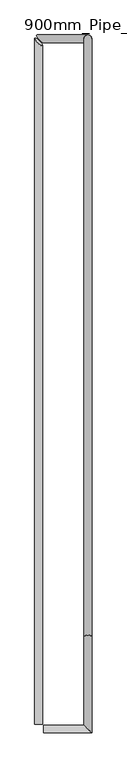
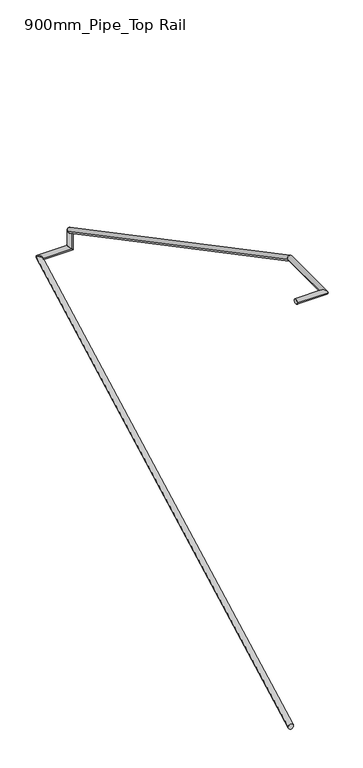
"""IFC4 building model written with IfcOpenShell, lengths in millimetres: railing geometry, 900mm_Pipe_Top Rail."""

from ifc_helpers import new_model, si_unit, frame, origin, place, context, project, spatial, circle_curve, ellipse_curve, source, transform, mapped, element, save
from ifc_brep_helpers import plane_surface, cylinder_surface, advanced_brep


def railing_900mm_pipe_top_rail_d9892091(model_context):
    return source(origin(), model_context, "Body", "AdvancedBrep", [
        advanced_brep(
        [(-12195.3216429, -3435.1039323, 2906.7976593), (-12235.3216429, -3435.1039323, 2906.7976593), (-12195.3216429, 6.5804296, 4729.2514737), (-12235.3216429, 41.9303083, 4747.9700762)],
        [
            (0, 1, ellipse_curve(frame((-12215.3216429, -3435.1039323, 2906.7976593), z_axis=(0.0, -1.0, 0.0), x_axis=(0.0, 0.0, -1.0)), 22.6309122, 20.0)),
            (1, 0, ellipse_curve(frame((-12215.3216429, -3435.1039323, 2906.7976593), z_axis=(0.0, -1.0, 0.0), x_axis=(0.0, 0.0, -1.0)), 22.6309122, 20.0)),
            (2, 3, ellipse_curve(frame((-12215.3216429, 24.2553689, 4738.6107749), z_axis=(0.7071067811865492, 0.624903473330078, 0.33090126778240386), x_axis=(0.7071067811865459, -0.6249034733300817, -0.33090126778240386)), 28.2842712, 20.0)),
            (3, 2, ellipse_curve(frame((-12215.3216429, 24.2553689, 4738.6107749), z_axis=(0.7071067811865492, 0.624903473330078, 0.33090126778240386), x_axis=(0.7071067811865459, -0.6249034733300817, -0.33090126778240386)), 28.2842712, 20.0)),
            (0, 2),
            (3, 1),
        ],
        [
            plane_surface(frame((-12215.3216429, -3435.1039323, 2929.4285714), z_axis=(0.0, -1.0, 0.0), x_axis=(0.0, 0.0, 1.0))),
            plane_surface(frame((-12215.3216429, 14.8960677, 4756.2857143), z_axis=(0.7071067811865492, 0.624903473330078, 0.33090126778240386), x_axis=(0.7071067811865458, -0.624903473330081, -0.3309012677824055))),
            cylinder_surface(frame((-12215.3216429, -3425.7446311, 2911.7536321), z_axis=(0.0, -0.8837469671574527, -0.46796506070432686), x_axis=(-1.0, 0.0, 0.0)), 20.0),
        ],
        [
            (0, [[1, 2]]),
            (1, [[3, 4]]),
            (2, [[-1, 5, -4, 6]]),
            (2, [[-2, -6, -3, -5]]),
        ],
    ),
        advanced_brep(
        [(-12188.2874024, 19.9094255, 4736.2857143), (-12223.6372811, 59.9094255, 4736.2857143), (-11965.2146087, 19.9094255, 4736.2857143), (-11965.2146087, 59.9094255, 4736.2857143)],
        [
            (0, 1, ellipse_curve(frame((-12205.9623417, 39.9094255, 4736.2857143), z_axis=(-0.7071067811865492, -0.624903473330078, -0.33090126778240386), x_axis=(-0.7071067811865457, 0.6249034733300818, 0.33090126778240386)), 28.2842712, 20.0)),
            (1, 0, ellipse_curve(frame((-12205.9623417, 39.9094255, 4736.2857143), z_axis=(-0.7071067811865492, -0.624903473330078, -0.33090126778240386), x_axis=(-0.7071067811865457, 0.6249034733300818, 0.33090126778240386)), 28.2842712, 20.0)),
            (2, 3, ellipse_curve(frame((-11965.2146087, 39.9094255, 4736.2857143), z_axis=(0.7071067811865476, 0.0, 0.7071067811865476), x_axis=(-0.7071067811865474, 0.0, 0.7071067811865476)), 28.2842712, 20.0)),
            (3, 2, ellipse_curve(frame((-11965.2146087, 39.9094255, 4736.2857143), z_axis=(0.7071067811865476, 0.0, 0.7071067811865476), x_axis=(-0.7071067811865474, 0.0, 0.7071067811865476)), 28.2842712, 20.0)),
            (0, 2),
            (3, 1),
        ],
        [
            plane_surface(frame((-12215.3216429, 39.9094255, 4756.2857143), z_axis=(-0.7071067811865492, -0.624903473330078, -0.33090126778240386), x_axis=(0.7071067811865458, -0.624903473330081, -0.3309012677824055))),
            plane_surface(frame((-11985.2146087, 39.9094255, 4756.2857143), z_axis=(0.7071067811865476, 0.0, 0.7071067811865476), x_axis=(0.7071067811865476, 0.0, -0.7071067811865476))),
            cylinder_surface(frame((-12215.3216429, 39.9094255, 4736.2857143), z_axis=(-1.0, 0.0, 0.0), x_axis=(0.0, 1.0, 0.0)), 20.0),
        ],
        [
            (0, [[1, 2]]),
            (1, [[3, 4]]),
            (2, [[-1, 5, -4, 6]]),
            (2, [[-2, -6, -3, -5]]),
        ],
    ),
        advanced_brep(
        [(-11965.2146087, 19.9094255, 4736.2857143), (-11965.2146087, 59.9094255, 4736.2857143), (-11965.2146087, 19.9094255, 4867.2263405), (-11965.2146087, 59.9094255, 4891.3072125)],
        [
            (0, 1, ellipse_curve(frame((-11965.2146087, 39.9094255, 4736.2857143), z_axis=(-0.7071067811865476, 0.0, -0.7071067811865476), x_axis=(0.7071067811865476, 0.0, -0.7071067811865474)), 28.2842712, 20.0)),
            (1, 0, ellipse_curve(frame((-11965.2146087, 39.9094255, 4736.2857143), z_axis=(-0.7071067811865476, 0.0, -0.7071067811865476), x_axis=(0.7071067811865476, 0.0, -0.7071067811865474)), 28.2842712, 20.0)),
            (2, 3, ellipse_curve(frame((-11965.2146087, 39.9094255, 4879.2667765), z_axis=(0.0, -0.5157688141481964, 0.8567278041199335), x_axis=(0.0, -0.8567278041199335, -0.5157688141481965)), 23.3446375, 20.0)),
            (3, 2, ellipse_curve(frame((-11965.2146087, 39.9094255, 4879.2667765), z_axis=(0.0, -0.5157688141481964, 0.8567278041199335), x_axis=(0.0, -0.8567278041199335, -0.5157688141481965)), 23.3446375, 20.0)),
            (0, 2),
            (3, 1),
        ],
        [
            plane_surface(frame((-11965.2146087, 39.9094255, 4736.2857143), z_axis=(-0.7071067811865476, 0.0, -0.7071067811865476), x_axis=(0.7071067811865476, 0.0, -0.7071067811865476))),
            plane_surface(frame((-11965.2146087, 39.9094255, 4879.2667765), z_axis=(0.0, -0.5157688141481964, 0.8567278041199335), x_axis=(1.0, 0.0, 0.0))),
            cylinder_surface(frame((-11965.2146087, 39.9094255, 4736.2857143), z_axis=(0.0, 0.0, -1.0), x_axis=(0.0, 1.0, 0.0)), 20.0),
        ],
        [
            (0, [[1, 2]]),
            (1, [[3, 4]]),
            (2, [[-1, 5, -4, 6]]),
            (2, [[-2, -6, -3, -5]]),
        ],
    ),
        advanced_brep(
        [(-11985.2146087, 39.9094255, 4879.2667765), (-11945.2146087, 39.9094255, 4879.2667765), (-11985.2146087, -2990.0723815, 6483.7142857), (-11945.2146087, -2990.0723815, 6483.7142857), (-11985.2146087, -3440.1039323, 6483.7142857), (-11945.2146087, -3480.1039323, 6483.7142857), (-12190.3216429, -3440.1039323, 6483.7142857), (-12190.3216429, -3480.1039323, 6483.7142857)],
        [
            (0, 1, ellipse_curve(frame((-11965.2146087, 39.9094255, 4879.2667765), z_axis=(0.0, 0.5157688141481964, -0.8567278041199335), x_axis=(0.0, 0.8567278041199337, 0.5157688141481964)), 23.3446375, 20.0)),
            (1, 0, ellipse_curve(frame((-11965.2146087, 39.9094255, 4879.2667765), z_axis=(0.0, 0.5157688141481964, -0.8567278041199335), x_axis=(0.0, 0.8567278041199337, 0.5157688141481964)), 23.3446375, 20.0)),
            (0, 2),
            (2, 3, ellipse_curve(frame((-11965.2146087, -2990.0723815, 6483.7142857), z_axis=(0.0, 0.9705016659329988, -0.24109441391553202), x_axis=(0.0, -0.24109441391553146, -0.9705016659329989)), 20.6078987, 20.0)),
            (3, 1),
            (3, 2, ellipse_curve(frame((-11965.2146087, -2990.0723815, 6483.7142857), z_axis=(0.0, 0.9705016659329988, -0.24109441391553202), x_axis=(0.0, -0.24109441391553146, -0.9705016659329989)), 20.6078987, 20.0)),
            (2, 4),
            (4, 5, ellipse_curve(frame((-11965.2146087, -3460.1039323, 6483.7142857), z_axis=(0.7071067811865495, 0.7071067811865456, 0.0), x_axis=(-0.7071067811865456, 0.7071067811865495, 0.0)), 28.2842712, 20.0)),
            (5, 3),
            (5, 4, ellipse_curve(frame((-11965.2146087, -3460.1039323, 6483.7142857), z_axis=(0.7071067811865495, 0.7071067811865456, 0.0), x_axis=(-0.7071067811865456, 0.7071067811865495, 0.0)), 28.2842712, 20.0)),
            (6, 7, circle_curve(frame((-12190.3216429, -3460.1039323, 6483.7142857), z_axis=(-1.0, 0.0, 0.0), x_axis=(0.0, -1.0, 0.0)), 20.0)),
            (7, 6, circle_curve(frame((-12190.3216429, -3460.1039323, 6483.7142857), z_axis=(-1.0, 0.0, 0.0), x_axis=(0.0, -1.0, 0.0)), 20.0)),
            (4, 6),
            (7, 5),
        ],
        [
            plane_surface(frame((-11965.2146087, 59.9094255, 4891.3072125), z_axis=(0.0, 0.5157688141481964, -0.8567278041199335), x_axis=(1.0, 0.0, 0.0))),
            cylinder_surface(frame((-11965.2146087, 50.5501243, 4873.6322731), z_axis=(0.0, 0.8837469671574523, -0.46796506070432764), x_axis=(1.0, 0.0, 0.0)), 20.0),
            cylinder_surface(frame((-11965.2146087, -2985.1039323, 6483.7142857), z_axis=(0.0, 1.0, 0.0), x_axis=(1.0, 0.0, 0.0)), 20.0),
            plane_surface(frame((-12190.3216429, -3460.1039323, 6503.7142857), z_axis=(-1.0, 0.0, 0.0), x_axis=(0.0, -1.0, 0.0))),
            cylinder_surface(frame((-11965.2146087, -3460.1039323, 6483.7142857), z_axis=(1.0, 0.0, 0.0), x_axis=(0.0, -1.0, 0.0)), 20.0),
        ],
        [
            (0, [[1, 2]]),
            (1, [[-1, 3, 4, 5]]),
            (1, [[-2, -5, 6, -3]]),
            (2, [[-4, 7, 8, 9]]),
            (2, [[-6, -9, 10, -7]]),
            (3, [[11, 12]]),
            (4, [[-8, 13, -12, 14]]),
            (4, [[-10, -14, -11, -13]]),
        ],
    ),
    ])


if __name__ == "__main__":
    model = new_model("IFC4")
    model_context = context("Model", 3, world=origin())
    ifc_project = project(units=[si_unit("LENGTHUNIT", "METRE", prefix="MILLI")], contexts=[model_context])
    site = spatial("IfcSite", under=ifc_project)
    building = spatial("IfcBuilding", under=site)
    placement = place(None, origin())
    railing_900mm_pipe_top_rail_shape = railing_900mm_pipe_top_rail_d9892091(model_context)
    element("IfcRailing", 1, ObjectType="900mm_Pipe_Top Rail", at=placement, inside=building, context=model_context, shape_type="MappedRepresentation", body=[
        mapped(railing_900mm_pipe_top_rail_shape, transform((0.0, 0.0, 0.0), x_axis=(1.0, 0.0, 0.0), y_axis=(0.0, 1.0, 0.0), z_axis=(0.0, 0.0, 1.0))),
    ])
    save(model, "model.ifc")
